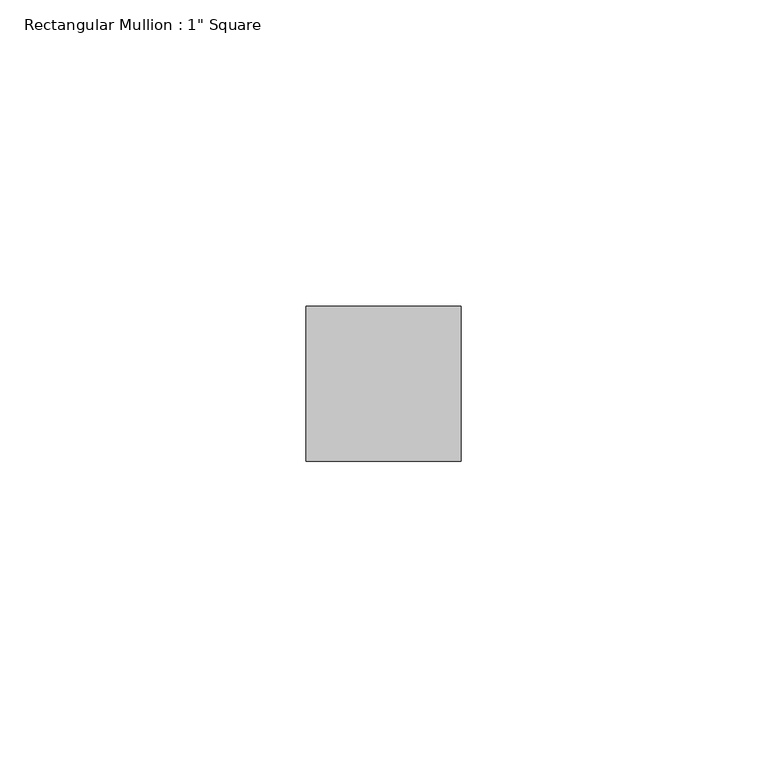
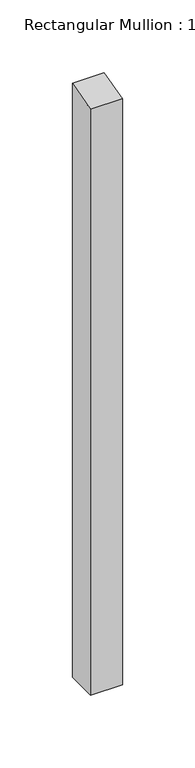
"""IFC4 building model written with IfcOpenShell, lengths in millimetres: member geometry."""

from ifc_helpers import new_model, si_unit, frame, origin, place, context, project, spatial, polyline, outline, extrude, source, transform, mapped, element, save


def member_01ebdf2a(model_context):
    return source(origin(), model_context, "Body", "SweptSolid", [
        extrude(outline(polyline([(-12.7, -3.3412882), (12.7, 3.3412882), (12.7, -496.7079644), (-12.7, -496.7079644), (-12.7, -3.3412882)])), frame((-12.7, 0.0, 0.0), z_axis=(1.0, 0.0, 0.0), x_axis=(0.0, 1.0, 0.0)), (0.0, 0.0, 1.0), 25.4),
    ])


if __name__ == "__main__":
    model = new_model("IFC4")
    model_context = context("Model", 3, world=origin())
    ifc_project = project(units=[si_unit("LENGTHUNIT", "METRE", prefix="MILLI")], contexts=[model_context])
    site = spatial("IfcSite", under=ifc_project)
    building = spatial("IfcBuilding", under=site)
    placement = place(None, origin())
    member_shape = member_01ebdf2a(model_context)
    element("IfcMember", 1, ObjectType="Rectangular Mullion : 1\" Square", at=placement, inside=building, context=model_context, shape_type="MappedRepresentation", body=[
        mapped(member_shape, transform((0.0, 0.0, 0.0), x_axis=(1.0, 0.0, 0.0), y_axis=(0.0, 1.0, 0.0), z_axis=(0.0, 0.0, 1.0))),
    ])
    save(model, "model.ifc")
